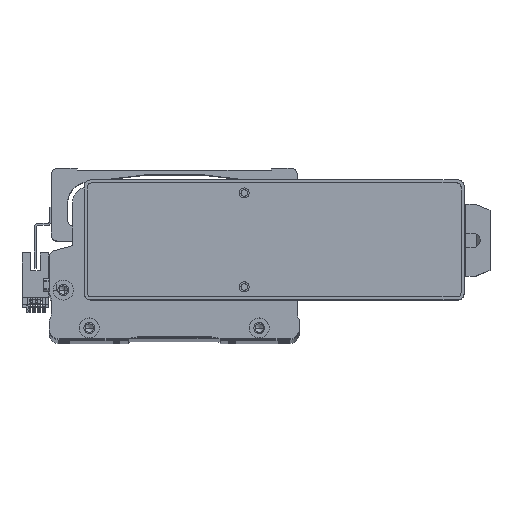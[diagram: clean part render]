
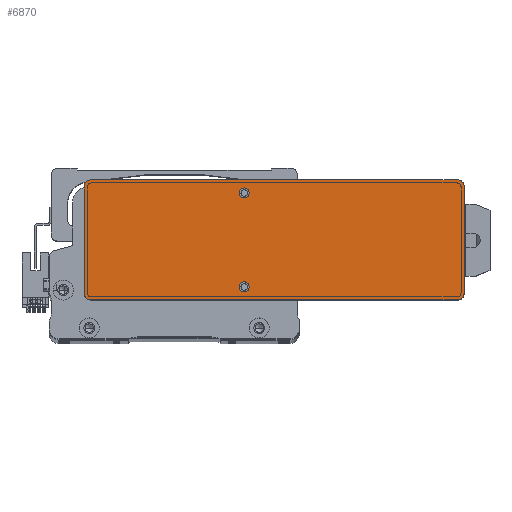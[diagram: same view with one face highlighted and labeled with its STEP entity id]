
A CAD part, top view. The second image highlights one B-rep face of the part: STEP entity #6870.
In plain terms, the highlighted planar face has unit normal (0, 0, 1) as drawn and (0, 0, -1) by its records, which use the part's own axes.
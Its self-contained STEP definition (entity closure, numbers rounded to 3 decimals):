
#1265 = VERTEX_POINT ( 'NONE', #6215 ) ;
#1781 = VECTOR ( 'NONE', #61885, 1000. ) ;
#2127 = DIRECTION ( 'NONE',  ( 0., 0., -1. ) ) ;
#5428 = ORIENTED_EDGE ( 'NONE', *, *, #73039, .F. ) ;
#5980 = LINE ( 'NONE', #22058, #70988 ) ;
#6125 = CARTESIAN_POINT ( 'NONE',  ( -15., -23.5, 0. ) ) ;
#6215 = CARTESIAN_POINT ( 'NONE',  ( -92., -30., 0. ) ) ;
#6841 = DIRECTION ( 'NONE',  ( 0., 0., -1. ) ) ;
#6870 = ADVANCED_FACE ( 'NONE', ( #10533, #44098, #60813 ), #17386, .F. ) ;
#8342 = EDGE_CURVE ( 'NONE', #59567, #33785, #46774, .T. ) ;
#9798 = EDGE_CURVE ( 'NONE', #73030, #68993, #12048, .T. ) ;
#10133 = AXIS2_PLACEMENT_3D ( 'NONE', #62681, #24895, #69030 ) ;
#10388 = AXIS2_PLACEMENT_3D ( 'NONE', #14309, #58447, #20658 ) ;
#10533 = FACE_BOUND ( 'NONE', #22069, .T. ) ;
#10995 = CIRCLE ( 'NONE', #46641, 2.5 ) ;
#12048 = LINE ( 'NONE', #36534, #28781 ) ;
#12369 = DIRECTION ( 'NONE',  ( -1., 0., 0. ) ) ;
#12704 = CIRCLE ( 'NONE', #20573, 2.5 ) ;
#13419 = EDGE_LOOP ( 'NONE', ( #74091, #15574, #55785, #43458, #49448, #60054, #67352, #80007 ) ) ;
#14309 = CARTESIAN_POINT ( 'NONE',  ( -92., 27., 0. ) ) ;
#14979 = CARTESIAN_POINT ( 'NONE',  ( -15., -23.5, 0. ) ) ;
#15574 = ORIENTED_EDGE ( 'NONE', *, *, #75070, .T. ) ;
#15724 = EDGE_CURVE ( 'NONE', #61555, #23710, #12704, .T. ) ;
#16489 = VECTOR ( 'NONE', #53916, 1000. ) ;
#17386 = PLANE ( 'NONE',  #74261 ) ;
#18529 = CARTESIAN_POINT ( 'NONE',  ( -12.5, -23.5, 0. ) ) ;
#20573 = AXIS2_PLACEMENT_3D ( 'NONE', #39817, #2127, #46146 ) ;
#20658 = DIRECTION ( 'NONE',  ( 1., 0., 0. ) ) ;
#21325 = DIRECTION ( 'NONE',  ( -1., 0., 0. ) ) ;
#22058 = CARTESIAN_POINT ( 'NONE',  ( -95., -30., 0. ) ) ;
#22069 = EDGE_LOOP ( 'NONE', ( #5428, #76665 ) ) ;
#23710 = VERTEX_POINT ( 'NONE', #57204 ) ;
#23721 = DIRECTION ( 'NONE',  ( 1., 0., 0. ) ) ;
#24371 = EDGE_CURVE ( 'NONE', #71853, #62677, #5980, .T. ) ;
#24605 = CIRCLE ( 'NONE', #27365, 2.5 ) ;
#24895 = DIRECTION ( 'NONE',  ( 0., 0., -1. ) ) ;
#25080 = CIRCLE ( 'NONE', #10133, 3. ) ;
#25427 = EDGE_CURVE ( 'NONE', #1265, #36521, #35232, .T. ) ;
#27365 = AXIS2_PLACEMENT_3D ( 'NONE', #69990, #32159, #76241 ) ;
#28781 = VECTOR ( 'NONE', #61864, 1000. ) ;
#29027 = AXIS2_PLACEMENT_3D ( 'NONE', #6125, #50187, #12369 ) ;
#30013 = CARTESIAN_POINT ( 'NONE',  ( -12.5, 23.5, 0. ) ) ;
#30402 = CARTESIAN_POINT ( 'NONE',  ( 95., -30., 0. ) ) ;
#32159 = DIRECTION ( 'NONE',  ( 0., 0., -1. ) ) ;
#32302 = AXIS2_PLACEMENT_3D ( 'NONE', #44563, #6841, #50939 ) ;
#32730 = CARTESIAN_POINT ( 'NONE',  ( -92., 30., 0. ) ) ;
#33785 = VERTEX_POINT ( 'NONE', #36222 ) ;
#35006 = CARTESIAN_POINT ( 'NONE',  ( -95., 27., 0. ) ) ;
#35232 = LINE ( 'NONE', #30402, #1781 ) ;
#36222 = CARTESIAN_POINT ( 'NONE',  ( -17.5, -23.5, 0. ) ) ;
#36521 = VERTEX_POINT ( 'NONE', #78557 ) ;
#36534 = CARTESIAN_POINT ( 'NONE',  ( 95., 30., 0. ) ) ;
#36746 = DIRECTION ( 'NONE',  ( 0., 0., -1. ) ) ;
#38273 = VERTEX_POINT ( 'NONE', #39745 ) ;
#39489 = EDGE_CURVE ( 'NONE', #54557, #38273, #66804, .T. ) ;
#39745 = CARTESIAN_POINT ( 'NONE',  ( 95., 27., 0. ) ) ;
#39817 = CARTESIAN_POINT ( 'NONE',  ( -15., 23.5, 0. ) ) ;
#40009 = EDGE_CURVE ( 'NONE', #33785, #59567, #10995, .T. ) ;
#42255 = EDGE_CURVE ( 'NONE', #71853, #68993, #44954, .T. ) ;
#43458 = ORIENTED_EDGE ( 'NONE', *, *, #57967, .T. ) ;
#44098 = FACE_OUTER_BOUND ( 'NONE', #13419, .T. ) ;
#44563 = CARTESIAN_POINT ( 'NONE',  ( 92., 27., 0. ) ) ;
#44954 = CIRCLE ( 'NONE', #10388, 3. ) ;
#46146 = DIRECTION ( 'NONE',  ( -1., 0., 0. ) ) ;
#46641 = AXIS2_PLACEMENT_3D ( 'NONE', #14979, #59100, #21325 ) ;
#46774 = CIRCLE ( 'NONE', #29027, 2.5 ) ;
#47522 = CARTESIAN_POINT ( 'NONE',  ( 95., -30., 0. ) ) ;
#48856 = CIRCLE ( 'NONE', #32302, 3. ) ;
#49448 = ORIENTED_EDGE ( 'NONE', *, *, #24371, .F. ) ;
#50187 = DIRECTION ( 'NONE',  ( 0., 0., -1. ) ) ;
#50939 = DIRECTION ( 'NONE',  ( 1., 0., 0. ) ) ;
#51016 = CARTESIAN_POINT ( 'NONE',  ( 92., 30., 0. ) ) ;
#53916 = DIRECTION ( 'NONE',  ( 0., 1., 0. ) ) ;
#53922 = EDGE_CURVE ( 'NONE', #73030, #38273, #48856, .T. ) ;
#54557 = VERTEX_POINT ( 'NONE', #65091 ) ;
#55785 = ORIENTED_EDGE ( 'NONE', *, *, #25427, .F. ) ;
#57204 = CARTESIAN_POINT ( 'NONE',  ( -17.5, 23.5, 0. ) ) ;
#57910 = CARTESIAN_POINT ( 'NONE',  ( -95., -27., 0. ) ) ;
#57967 = EDGE_CURVE ( 'NONE', #1265, #62677, #73214, .T. ) ;
#58447 = DIRECTION ( 'NONE',  ( 0., 0., -1. ) ) ;
#59100 = DIRECTION ( 'NONE',  ( 0., 0., -1. ) ) ;
#59567 = VERTEX_POINT ( 'NONE', #18529 ) ;
#59813 = DIRECTION ( 'NONE',  ( 0., -1., 0. ) ) ;
#60054 = ORIENTED_EDGE ( 'NONE', *, *, #42255, .T. ) ;
#60813 = FACE_BOUND ( 'NONE', #77303, .T. ) ;
#61496 = DIRECTION ( 'NONE',  ( 0., 0., 1. ) ) ;
#61518 = ORIENTED_EDGE ( 'NONE', *, *, #40009, .F. ) ;
#61555 = VERTEX_POINT ( 'NONE', #30013 ) ;
#61864 = DIRECTION ( 'NONE',  ( -1., 0., 0. ) ) ;
#61885 = DIRECTION ( 'NONE',  ( 1., 0., 0. ) ) ;
#62677 = VERTEX_POINT ( 'NONE', #57910 ) ;
#62681 = CARTESIAN_POINT ( 'NONE',  ( 92., -27., 0. ) ) ;
#65091 = CARTESIAN_POINT ( 'NONE',  ( 95., -27., 0. ) ) ;
#66804 = LINE ( 'NONE', #47522, #16489 ) ;
#67352 = ORIENTED_EDGE ( 'NONE', *, *, #9798, .F. ) ;
#68993 = VERTEX_POINT ( 'NONE', #32730 ) ;
#69030 = DIRECTION ( 'NONE',  ( 1., 0., 0. ) ) ;
#69990 = CARTESIAN_POINT ( 'NONE',  ( -15., 23.5, 0. ) ) ;
#70988 = VECTOR ( 'NONE', #59813, 1000. ) ;
#71853 = VERTEX_POINT ( 'NONE', #35006 ) ;
#73030 = VERTEX_POINT ( 'NONE', #51016 ) ;
#73039 = EDGE_CURVE ( 'NONE', #23710, #61555, #24605, .T. ) ;
#73214 = CIRCLE ( 'NONE', #76927, 3. ) ;
#74091 = ORIENTED_EDGE ( 'NONE', *, *, #39489, .F. ) ;
#74261 = AXIS2_PLACEMENT_3D ( 'NONE', #80186, #61496, #23721 ) ;
#74432 = CARTESIAN_POINT ( 'NONE',  ( -92., -27., 0. ) ) ;
#75070 = EDGE_CURVE ( 'NONE', #54557, #36521, #25080, .T. ) ;
#76241 = DIRECTION ( 'NONE',  ( -1., 0., 0. ) ) ;
#76665 = ORIENTED_EDGE ( 'NONE', *, *, #15724, .F. ) ;
#76927 = AXIS2_PLACEMENT_3D ( 'NONE', #74432, #36746, #80747 ) ;
#77303 = EDGE_LOOP ( 'NONE', ( #61518, #79194 ) ) ;
#78557 = CARTESIAN_POINT ( 'NONE',  ( 92., -30., 0. ) ) ;
#79194 = ORIENTED_EDGE ( 'NONE', *, *, #8342, .F. ) ;
#80007 = ORIENTED_EDGE ( 'NONE', *, *, #53922, .T. ) ;
#80186 = CARTESIAN_POINT ( 'NONE',  ( 0., 0., 0. ) ) ;
#80747 = DIRECTION ( 'NONE',  ( 1., 0., 0. ) ) ;
